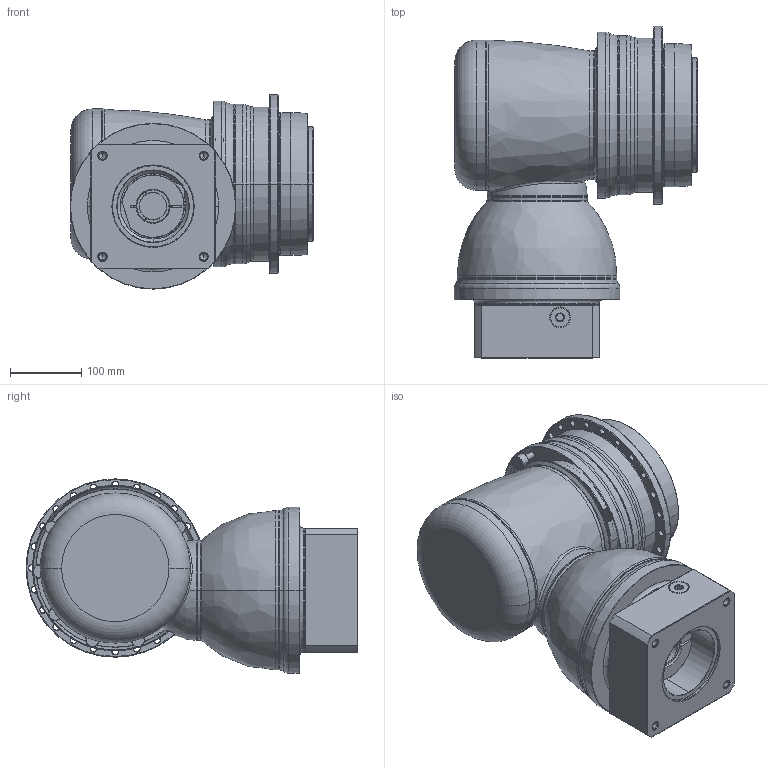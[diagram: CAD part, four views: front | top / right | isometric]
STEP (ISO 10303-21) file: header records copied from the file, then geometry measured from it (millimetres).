
FILE_DESCRIPTION((''),'2;1');
FILE_NAME('APK200_2ST_38-P0409910201_ASM','2018-06-05T',('D00080'),(''),'PRO/ENGINEER BY PARAMETRIC TECHNOLOGY CORPORATION, 2008170','PRO/ENGINEER BY PARAMETRIC TECHNOLOGY CORPORATION, 2008170','');
FILE_SCHEMA(('CONFIG_CONTROL_DESIGN'));
Length unit declared in the file: millimetre
Products named in the file (13): P1008600002; P1802610011; P0278601003; P0359601103; P1211600001; P1315600001; P1007601001; P1318610201; P0503900012; P0912652001; P0409910201; 21711422019; APK200_2ST_38-P0409910201_ASM
Assembly tree (12 placements, depth 2):
  APK200_2ST_38-P0409910201_ASM
    P1008600002
    P1802610011
    P0278601003
    P0359601103
    P1211600001
    P1315600001
    P1007601001
    P1318610201
    P0503900012
    P0912652001
    P0409910201
    21711422019
Bounding box: 341 x 464.25 x 271.75 mm (x, y, z)
Volume: 18828588 mm3; surface area: 1222204.8 mm2
Topology: 13 solids, 38 shells, 872 faces, 2036 edges, 1237 vertices
Faces by surface type: cylinder 357, cone 238, plane 153, torus 89, bspline 33, sphere 2
Entity records: 31530 total; most frequent: CARTESIAN_POINT 10870, DIRECTION 4767, ORIENTED_EDGE 3882, AXIS2_PLACEMENT_3D 2053, EDGE_CURVE 1992, VERTEX_POINT 1237, CIRCLE 1179, EDGE_LOOP 1027
